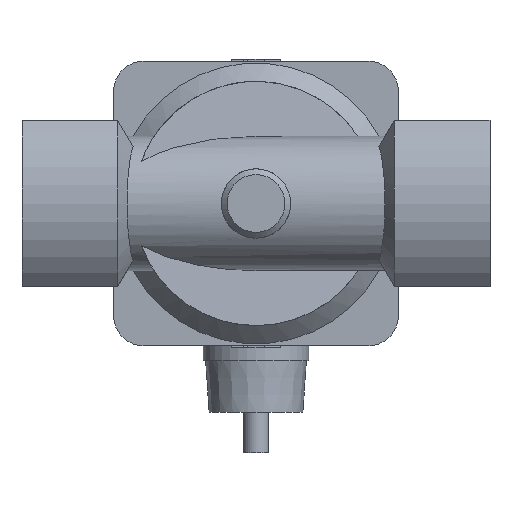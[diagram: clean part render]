
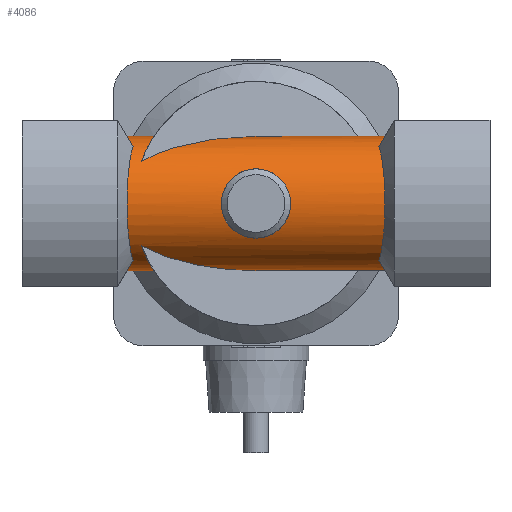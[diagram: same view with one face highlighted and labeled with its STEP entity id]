
A CAD part, front view. The second image highlights one B-rep face of the part: STEP entity #4086.
In plain terms, the highlighted cylindrical face has radius 16.5 mm (diameter 33 mm), a partial arc.
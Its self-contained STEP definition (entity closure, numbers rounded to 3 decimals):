
#400=LINE('',#6476,#746);
#401=LINE('',#6488,#747);
#402=LINE('',#6507,#748);
#403=LINE('',#6520,#749);
#746=VECTOR('',#5206,1000.);
#747=VECTOR('',#5209,1000.);
#748=VECTOR('',#5214,1000.);
#749=VECTOR('',#5217,1000.);
#1092=B_SPLINE_CURVE_WITH_KNOTS('',3,(#6461,#6462,#6463,#6464,#6465,#6466,
#6467,#6468,#6469,#6470,#6471,#6472),.UNSPECIFIED.,.F.,.F.,(4,1,1,1,1,1,
1,1,1,4),(0.001,0.009,0.014,0.016,
0.018,0.022,0.024,0.026,
0.03,0.034),.UNSPECIFIED.);
#1093=B_SPLINE_CURVE_WITH_KNOTS('',3,(#6478,#6479,#6480,#6481,#6482,#6483,
#6484),.UNSPECIFIED.,.F.,.F.,(4,1,1,1,4),(0.,0.004,
0.007,0.011,0.015),.UNSPECIFIED.);
#1094=B_SPLINE_CURVE_WITH_KNOTS('',3,(#6492,#6493,#6494,#6495,#6496,#6497,
#6498,#6499,#6500,#6501,#6502,#6503),.UNSPECIFIED.,.F.,.F.,(4,1,1,1,1,1,
1,1,1,4),(0.001,0.009,0.014,0.016,
0.018,0.022,0.024,0.026,
0.03,0.034),.UNSPECIFIED.);
#1095=B_SPLINE_CURVE_WITH_KNOTS('',3,(#6511,#6512,#6513,#6514,#6515,#6516,
#6517,#6518),.UNSPECIFIED.,.F.,.F.,(4,1,1,1,1,4),(0.002,0.006,
0.009,0.011,0.013,0.017),
 .UNSPECIFIED.);
#1096=B_SPLINE_CURVE_WITH_KNOTS('',3,(#6521,#6522,#6523,#6524,#6525,#6526,
#6527,#6528,#6529,#6530,#6531,#6532,#6533,#6534,#6535,#6536,#6537,#6538,
#6539,#6540),.UNSPECIFIED.,.T.,.F.,(1,1,1,1,1,1,1,1,1,1,1,1,1,1,1,1,1,1,
1,1,1,1,1,1),(-0.007,-0.003,-0.002,
0.,0.003,0.007,0.01,0.014,
0.017,0.02,0.024,0.027,
0.03,0.034,0.037,0.041,
0.044,0.047,0.051,0.052,
0.054,0.057,0.061,0.064),
 .UNSPECIFIED.);
#1143=ORIENTED_EDGE('',*,*,#2321,.F.);
#1144=ORIENTED_EDGE('',*,*,#2322,.F.);
#1145=ORIENTED_EDGE('',*,*,#2323,.F.);
#1146=ORIENTED_EDGE('',*,*,#2324,.F.);
#1147=ORIENTED_EDGE('',*,*,#2325,.T.);
#1148=ORIENTED_EDGE('',*,*,#2326,.F.);
#1149=ORIENTED_EDGE('',*,*,#2327,.F.);
#1150=ORIENTED_EDGE('',*,*,#2328,.T.);
#1151=ORIENTED_EDGE('',*,*,#2329,.T.);
#1152=ORIENTED_EDGE('',*,*,#2330,.T.);
#1153=ORIENTED_EDGE('',*,*,#2331,.F.);
#1154=ORIENTED_EDGE('',*,*,#2332,.F.);
#1155=ORIENTED_EDGE('',*,*,#2333,.T.);
#1156=ORIENTED_EDGE('',*,*,#2334,.F.);
#1157=ORIENTED_EDGE('',*,*,#2335,.F.);
#2321=EDGE_CURVE('',#2910,#2911,#3321,.F.);
#2322=EDGE_CURVE('',#2912,#2910,#1092,.T.);
#2323=EDGE_CURVE('',#2913,#2912,#3322,.F.);
#2324=EDGE_CURVE('',#2914,#2913,#400,.T.);
#2325=EDGE_CURVE('',#2914,#2915,#1093,.T.);
#2326=EDGE_CURVE('',#2916,#2915,#3323,.F.);
#2327=EDGE_CURVE('',#2917,#2916,#401,.T.);
#2328=EDGE_CURVE('',#2917,#2918,#3324,.T.);
#2329=EDGE_CURVE('',#2918,#2919,#1094,.T.);
#2330=EDGE_CURVE('',#2919,#2920,#3325,.T.);
#2331=EDGE_CURVE('',#2921,#2920,#402,.T.);
#2332=EDGE_CURVE('',#2922,#2921,#3326,.F.);
#2333=EDGE_CURVE('',#2922,#2923,#1095,.T.);
#2334=EDGE_CURVE('',#2911,#2923,#403,.T.);
#2335=EDGE_CURVE('',#2924,#2924,#1096,.T.);
#2910=VERTEX_POINT('',#6459);
#2911=VERTEX_POINT('',#6460);
#2912=VERTEX_POINT('',#6473);
#2913=VERTEX_POINT('',#6475);
#2914=VERTEX_POINT('',#6477);
#2915=VERTEX_POINT('',#6485);
#2916=VERTEX_POINT('',#6487);
#2917=VERTEX_POINT('',#6489);
#2918=VERTEX_POINT('',#6491);
#2919=VERTEX_POINT('',#6504);
#2920=VERTEX_POINT('',#6506);
#2921=VERTEX_POINT('',#6508);
#2922=VERTEX_POINT('',#6510);
#2923=VERTEX_POINT('',#6519);
#2924=VERTEX_POINT('',#6541);
#3321=ELLIPSE('',#4744,19.053,16.5);
#3322=ELLIPSE('',#4745,19.053,16.5);
#3323=ELLIPSE('',#4746,39.788,16.5);
#3324=ELLIPSE('',#4747,19.053,16.5);
#3325=ELLIPSE('',#4748,19.053,16.5);
#3326=ELLIPSE('',#4749,39.788,16.5);
#3329=EDGE_LOOP('',(#1143,#1144,#1145,#1146,#1147,#1148,#1149,#1150,#1151,
#1152,#1153,#1154,#1155,#1156));
#3330=EDGE_LOOP('',(#1157));
#3667=FACE_BOUND('',#3329,.T.);
#3668=FACE_BOUND('',#3330,.T.);
#4005=CYLINDRICAL_SURFACE('',#4743,16.5);
#4086=ADVANCED_FACE('',(#3667,#3668),#4005,.T.);
#4743=AXIS2_PLACEMENT_3D('',#6457,#5200,#5201);
#4744=AXIS2_PLACEMENT_3D('',#6458,#5202,#5203);
#4745=AXIS2_PLACEMENT_3D('',#6474,#5204,#5205);
#4746=AXIS2_PLACEMENT_3D('',#6486,#5207,#5208);
#4747=AXIS2_PLACEMENT_3D('',#6490,#5210,#5211);
#4748=AXIS2_PLACEMENT_3D('',#6505,#5212,#5213);
#4749=AXIS2_PLACEMENT_3D('',#6509,#5215,#5216);
#5200=DIRECTION('',(-1.,0.,0.));
#5201=DIRECTION('',(0.,0.,1.));
#5202=DIRECTION('',(0.866,0.,0.5));
#5203=DIRECTION('',(-0.5,0.,0.866));
#5204=DIRECTION('',(0.866,0.,-0.5));
#5205=DIRECTION('',(-0.5,0.,-0.866));
#5206=DIRECTION('',(-1.,0.,0.));
#5207=DIRECTION('',(0.415,-0.91,0.));
#5208=DIRECTION('',(-0.91,-0.415,0.));
#5209=DIRECTION('',(-1.,0.,0.));
#5210=DIRECTION('',(-0.866,0.,-0.5));
#5211=DIRECTION('',(-0.5,0.,0.866));
#5212=DIRECTION('',(-0.866,0.,0.5));
#5213=DIRECTION('',(-0.5,0.,-0.866));
#5214=DIRECTION('',(1.,0.,0.));
#5215=DIRECTION('',(0.415,-0.91,0.));
#5216=DIRECTION('',(-0.91,-0.415,0.));
#5217=DIRECTION('',(1.,0.,0.));
#6457=CARTESIAN_POINT('',(35.,0.,0.));
#6458=CARTESIAN_POINT('',(-22.164,0.,0.));
#6459=CARTESIAN_POINT('',(-30.223,-8.798,13.959));
#6460=CARTESIAN_POINT('',(-31.691,0.,16.5));
#6461=CARTESIAN_POINT('',(-30.223,-8.798,-13.959));
#6462=CARTESIAN_POINT('',(-30.692,-11.121,-12.494));
#6463=CARTESIAN_POINT('',(-31.245,-14.054,-9.414));
#6464=CARTESIAN_POINT('',(-31.579,-15.883,-4.831));
#6465=CARTESIAN_POINT('',(-31.674,-16.409,-2.113));
#6466=CARTESIAN_POINT('',(-31.707,-16.589,0.702));
#6467=CARTESIAN_POINT('',(-31.644,-16.239,3.461));
#6468=CARTESIAN_POINT('',(-31.485,-15.365,6.133));
#6469=CARTESIAN_POINT('',(-31.267,-14.183,8.629));
#6470=CARTESIAN_POINT('',(-30.878,-12.111,11.463));
#6471=CARTESIAN_POINT('',(-30.459,-9.968,13.221));
#6472=CARTESIAN_POINT('',(-30.223,-8.798,13.959));
#6473=CARTESIAN_POINT('',(-30.223,-8.798,-13.959));
#6474=CARTESIAN_POINT('',(-22.164,0.,0.));
#6475=CARTESIAN_POINT('',(-31.691,0.,-16.5));
#6476=CARTESIAN_POINT('',(35.,0.,-16.5));
#6477=CARTESIAN_POINT('',(-25.055,0.,-16.5));
#6478=CARTESIAN_POINT('',(-25.055,0.,-16.5));
#6479=CARTESIAN_POINT('',(-25.055,-1.27,-16.5));
#6480=CARTESIAN_POINT('',(-25.248,-3.75,-16.212));
#6481=CARTESIAN_POINT('',(-26.023,-7.272,-14.965));
#6482=CARTESIAN_POINT('',(-27.071,-10.361,-13.009));
#6483=CARTESIAN_POINT('',(-27.8,-12.065,-11.32));
#6484=CARTESIAN_POINT('',(-28.148,-12.828,-10.378));
#6485=CARTESIAN_POINT('',(-28.148,-12.828,-10.378));
#6486=CARTESIAN_POINT('',(0.,0.,0.));
#6487=CARTESIAN_POINT('',(0.,0.,-16.5));
#6488=CARTESIAN_POINT('',(35.,0.,-16.5));
#6489=CARTESIAN_POINT('',(31.691,0.,-16.5));
#6490=CARTESIAN_POINT('',(22.164,0.,0.));
#6491=CARTESIAN_POINT('',(30.223,-8.798,-13.959));
#6492=CARTESIAN_POINT('',(30.223,-8.798,-13.959));
#6493=CARTESIAN_POINT('',(30.692,-11.121,-12.494));
#6494=CARTESIAN_POINT('',(31.245,-14.054,-9.414));
#6495=CARTESIAN_POINT('',(31.579,-15.883,-4.831));
#6496=CARTESIAN_POINT('',(31.674,-16.409,-2.113));
#6497=CARTESIAN_POINT('',(31.707,-16.589,0.702));
#6498=CARTESIAN_POINT('',(31.644,-16.239,3.461));
#6499=CARTESIAN_POINT('',(31.485,-15.365,6.133));
#6500=CARTESIAN_POINT('',(31.267,-14.183,8.629));
#6501=CARTESIAN_POINT('',(30.878,-12.111,11.463));
#6502=CARTESIAN_POINT('',(30.459,-9.968,13.221));
#6503=CARTESIAN_POINT('',(30.223,-8.798,13.959));
#6504=CARTESIAN_POINT('',(30.223,-8.798,13.959));
#6505=CARTESIAN_POINT('',(22.164,0.,0.));
#6506=CARTESIAN_POINT('',(31.691,0.,16.5));
#6507=CARTESIAN_POINT('',(-35.,0.,16.5));
#6508=CARTESIAN_POINT('',(0.,0.,16.5));
#6509=CARTESIAN_POINT('',(0.,0.,0.));
#6510=CARTESIAN_POINT('',(-28.148,-12.828,10.378));
#6511=CARTESIAN_POINT('',(-28.148,-12.828,10.378));
#6512=CARTESIAN_POINT('',(-27.803,-12.07,11.314));
#6513=CARTESIAN_POINT('',(-27.07,-10.36,13.012));
#6514=CARTESIAN_POINT('',(-26.199,-7.785,14.637));
#6515=CARTESIAN_POINT('',(-25.64,-5.537,15.58));
#6516=CARTESIAN_POINT('',(-25.199,-3.129,16.285));
#6517=CARTESIAN_POINT('',(-25.055,-1.272,16.5));
#6518=CARTESIAN_POINT('',(-25.055,0.,16.5));
#6519=CARTESIAN_POINT('',(-25.055,0.,16.5));
#6520=CARTESIAN_POINT('',(-35.,0.,16.5));
#6521=CARTESIAN_POINT('',(-1.723,-14.215,-8.381));
#6522=CARTESIAN_POINT('',(0.581,-14.069,-8.618));
#6523=CARTESIAN_POINT('',(3.386,-14.436,-8.033));
#6524=CARTESIAN_POINT('',(6.151,-15.374,-6.167));
#6525=CARTESIAN_POINT('',(8.028,-16.25,-3.405));
#6526=CARTESIAN_POINT('',(8.733,-16.623,-0.024));
#6527=CARTESIAN_POINT('',(8.04,-16.256,3.384));
#6528=CARTESIAN_POINT('',(6.158,-15.377,6.159));
#6529=CARTESIAN_POINT('',(3.406,-14.441,8.025));
#6530=CARTESIAN_POINT('',(0.032,-13.995,8.733));
#6531=CARTESIAN_POINT('',(-3.373,-14.43,8.044));
#6532=CARTESIAN_POINT('',(-6.143,-15.371,6.175));
#6533=CARTESIAN_POINT('',(-8.027,-16.249,3.41));
#6534=CARTESIAN_POINT('',(-8.733,-16.623,0.025));
#6535=CARTESIAN_POINT('',(-8.043,-16.258,-3.378));
#6536=CARTESIAN_POINT('',(-6.159,-15.375,-6.164));
#6537=CARTESIAN_POINT('',(-3.845,-14.595,-7.72));
#6538=CARTESIAN_POINT('',(-1.723,-14.215,-8.381));
#6539=CARTESIAN_POINT('',(0.581,-14.069,-8.618));
#6540=CARTESIAN_POINT('',(3.386,-14.436,-8.033));
#6541=CARTESIAN_POINT('',(0.,-14.142,-8.5));
